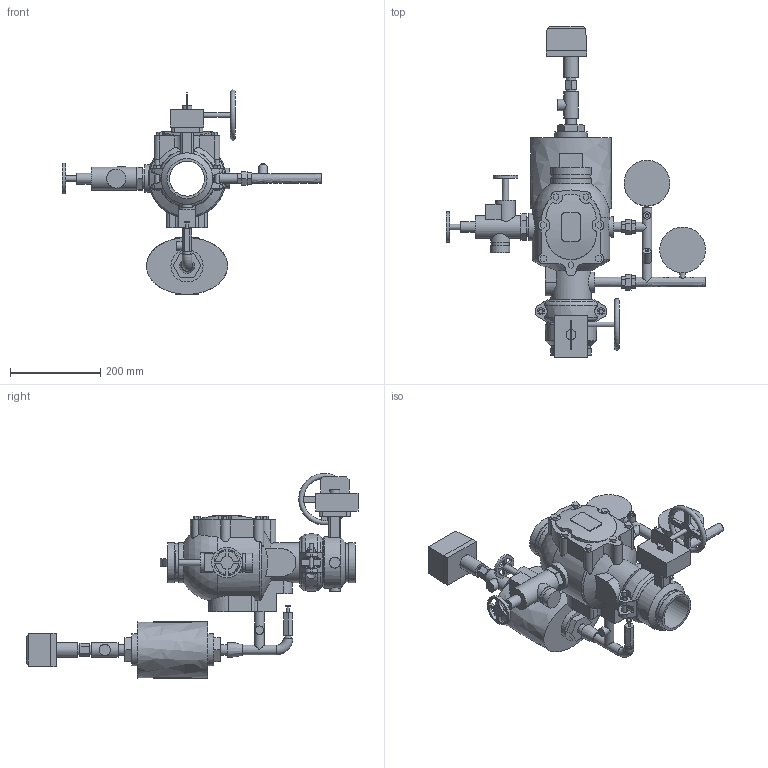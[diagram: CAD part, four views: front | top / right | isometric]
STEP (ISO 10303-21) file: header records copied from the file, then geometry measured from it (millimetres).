
FILE_DESCRIPTION(/* description */ ('VIC FP VALVE ALARM CHECK SERIES 751 (OGS)','CAx-IF Rec.Pracs.---Representation and Presentation of Product Manufacturing Information (PMI)---4.0---2014-10-13'),/* implementation_level */ '2;1');
FILE_NAME(/* name */ 'C:\Users\Vjadhav\AppData\Roaming\Autodesk\ApplicationPlugins\Victaulic.Temp\A404\Victaulic_FP_Valve Alarm Check_Series 751 (OGS)-European Trim_3 (80).stp',/* time_stamp */ '2021-04-19T16:29:47+06:00',/* author */ ('VJadhav'),/* organization */ ('Victaulic'),/* preprocessor_version */ 'ST-DEVELOPER v17.2',/* originating_system */ 'Autodesk Inventor 2019',/* authorisation */ '');
FILE_SCHEMA (('AP242_MANAGED_MODEL_BASED_3D_ENGINEERING_MIM_LF { 1 0 10303 442 1 1 4 }'));
Length unit declared in the file: inch
Products named in the file (4): 751-03.0; 751-03.0_1; 009N-03.0; 705-03.0
Assembly tree (3 placements, depth 2):
  751-03.0
    751-03.0_1
    009N-03.0
    705-03.0
Bounding box: 574.8 x 736.6 x 455.11 mm (x, y, z)
Volume: 7464291.8 mm3; surface area: 848348.2 mm2
Topology: 6 solids, 7 shells, 568 faces, 1515 edges, 1016 vertices
Faces by surface type: plane 363, cylinder 174, torus 12, bspline 10, cone 5, sphere 4
Full cylindrical faces by diameter (mm): 5 x1, 5.715 x1, 7.62 x1, 8.128 x1, 8.636 x4, 9.525 x4, 10 x1, 10.16 x1, 11.43 x1, 12 x1, 12.7 x1, 14 x1, 15.24 x1, 16.256 x1, 18.7 x1, 18.796 x1, 19.05 x2, 21.336 x11, 22.86 x2, 24 x1, 24.13 x1, 25 x1, 33.02 x2, 35.56 x1, 38.989 x1, 42.164 x4, 44 x1, 44.704 x1, 45.72 x1, 50.8 x1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
Entity records: 21072 total; most frequent: CARTESIAN_POINT 5841, ORIENTED_EDGE 3030, DIRECTION 2931, EDGE_CURVE 1515, AXIS2_PLACEMENT_3D 1026, VERTEX_POINT 1016, LINE 879, VECTOR 879
